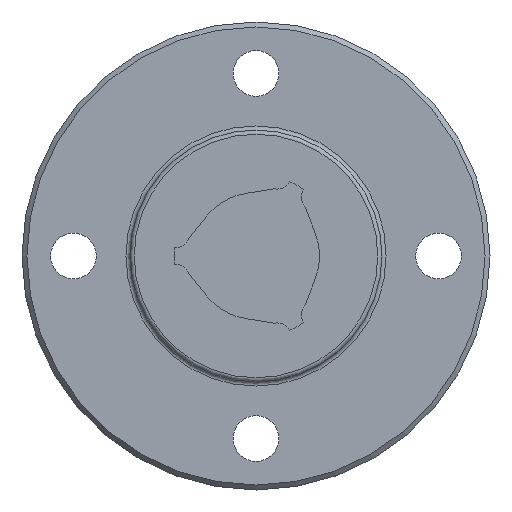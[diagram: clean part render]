
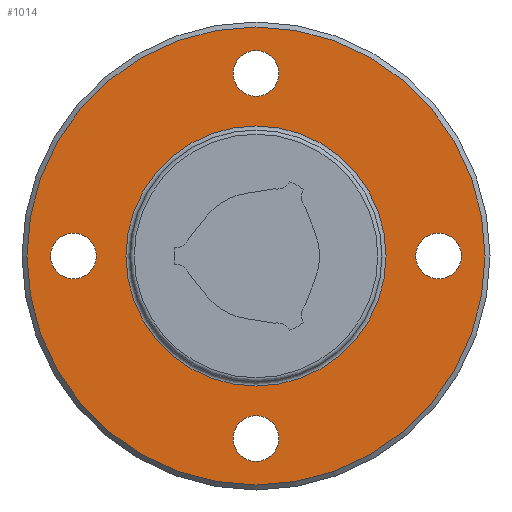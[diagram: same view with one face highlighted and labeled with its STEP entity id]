
A CAD part, left-side view. The second image highlights one B-rep face of the part: STEP entity #1014.
In plain terms, the highlighted planar face has unit normal (-1, 0, 0).
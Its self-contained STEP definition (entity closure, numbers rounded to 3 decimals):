
#49=PLANE('',#1146);
#319=ORIENTED_EDGE('',*,*,#534,.F.);
#320=ORIENTED_EDGE('',*,*,#535,.T.);
#321=ORIENTED_EDGE('',*,*,#536,.T.);
#322=ORIENTED_EDGE('',*,*,#537,.T.);
#323=ORIENTED_EDGE('',*,*,#538,.T.);
#324=ORIENTED_EDGE('',*,*,#533,.T.);
#533=EDGE_CURVE('',#651,#651,#730,.T.);
#534=EDGE_CURVE('',#652,#652,#731,.T.);
#535=EDGE_CURVE('',#653,#653,#732,.T.);
#536=EDGE_CURVE('',#654,#654,#733,.T.);
#537=EDGE_CURVE('',#655,#655,#734,.T.);
#538=EDGE_CURVE('',#656,#656,#735,.T.);
#651=VERTEX_POINT('',#1754);
#652=VERTEX_POINT('',#1757);
#653=VERTEX_POINT('',#1759);
#654=VERTEX_POINT('',#1761);
#655=VERTEX_POINT('',#1763);
#656=VERTEX_POINT('',#1765);
#730=CIRCLE('',#1145,15.675);
#731=CIRCLE('',#1147,27.6);
#732=CIRCLE('',#1148,2.75);
#733=CIRCLE('',#1149,2.75);
#734=CIRCLE('',#1150,2.75);
#735=CIRCLE('',#1151,2.75);
#795=EDGE_LOOP('',(#319));
#796=EDGE_LOOP('',(#320));
#797=EDGE_LOOP('',(#321));
#798=EDGE_LOOP('',(#322));
#799=EDGE_LOOP('',(#323));
#800=EDGE_LOOP('',(#324));
#891=FACE_BOUND('',#795,.T.);
#892=FACE_BOUND('',#796,.T.);
#893=FACE_BOUND('',#797,.T.);
#894=FACE_BOUND('',#798,.T.);
#895=FACE_BOUND('',#799,.T.);
#896=FACE_BOUND('',#800,.T.);
#1014=ADVANCED_FACE('',(#891,#892,#893,#894,#895,#896),#49,.F.);
#1145=AXIS2_PLACEMENT_3D('',#1753,#1388,#1389);
#1146=AXIS2_PLACEMENT_3D('',#1755,#1390,#1391);
#1147=AXIS2_PLACEMENT_3D('',#1756,#1392,#1393);
#1148=AXIS2_PLACEMENT_3D('',#1758,#1394,#1395);
#1149=AXIS2_PLACEMENT_3D('',#1760,#1396,#1397);
#1150=AXIS2_PLACEMENT_3D('',#1762,#1398,#1399);
#1151=AXIS2_PLACEMENT_3D('',#1764,#1400,#1401);
#1388=DIRECTION('',(1.,0.,0.));
#1389=DIRECTION('',(0.,1.,0.));
#1390=DIRECTION('',(1.,0.,0.));
#1391=DIRECTION('',(0.,1.,0.));
#1392=DIRECTION('',(1.,0.,0.));
#1393=DIRECTION('',(0.,1.,0.));
#1394=DIRECTION('',(1.,0.,0.));
#1395=DIRECTION('',(0.,0.,-1.));
#1396=DIRECTION('',(1.,0.,0.));
#1397=DIRECTION('',(0.,0.,-1.));
#1398=DIRECTION('',(1.,0.,0.));
#1399=DIRECTION('',(0.,0.,-1.));
#1400=DIRECTION('',(1.,0.,0.));
#1401=DIRECTION('',(0.,0.,-1.));
#1753=CARTESIAN_POINT('',(24.,0.,0.));
#1754=CARTESIAN_POINT('',(24.,15.675,0.));
#1755=CARTESIAN_POINT('',(24.,15.675,0.));
#1756=CARTESIAN_POINT('',(24.,0.,0.));
#1757=CARTESIAN_POINT('',(24.,27.6,0.));
#1758=CARTESIAN_POINT('',(24.,22.,0.));
#1759=CARTESIAN_POINT('',(24.,22.,-2.75));
#1760=CARTESIAN_POINT('',(24.,0.,-22.));
#1761=CARTESIAN_POINT('',(24.,0.,-24.75));
#1762=CARTESIAN_POINT('',(24.,0.,22.));
#1763=CARTESIAN_POINT('',(24.,0.,19.25));
#1764=CARTESIAN_POINT('',(24.,-22.,0.));
#1765=CARTESIAN_POINT('',(24.,-22.,-2.75));
